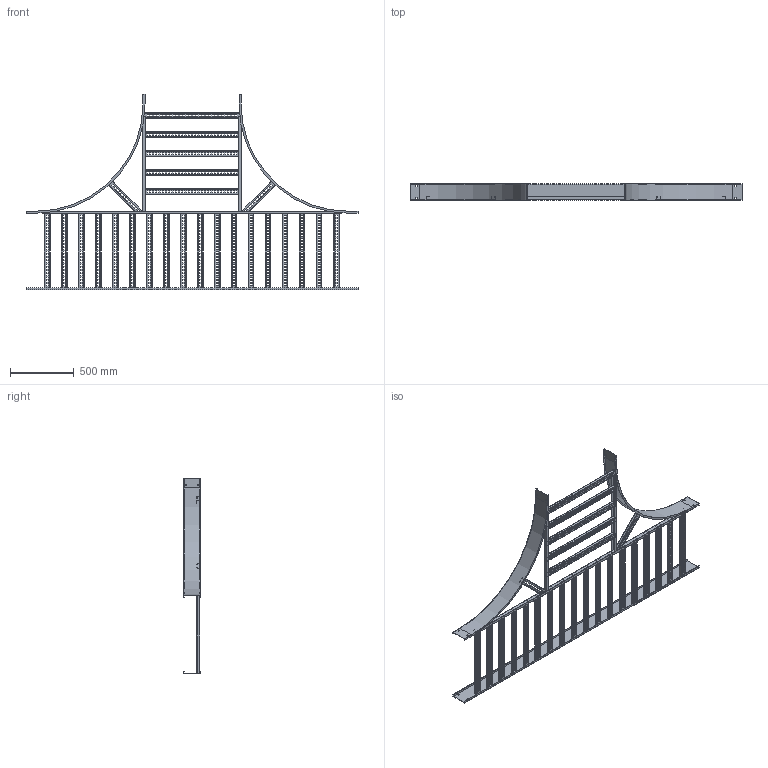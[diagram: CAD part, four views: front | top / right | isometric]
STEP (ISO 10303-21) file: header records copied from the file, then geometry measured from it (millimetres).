
FILE_DESCRIPTION((''),'2;1');
FILE_NAME('AUF52430VET36_ASM','2010-02-04T',('erouzier'),(''),'PRO/ENGINEER BY PARAMETRIC TECHNOLOGY CORPORATION, 2008510','PRO/ENGINEER BY PARAMETRIC TECHNOLOGY CORPORATION, 2008510','');
FILE_SCHEMA(('CONFIG_CONTROL_DESIGN'));
Length unit declared in the file: inch
Products named in the file (22): CDS001320-5-90-33-I; CDS013842-5-102; CDS000495_GEN_AF9; CDS002159L24-P_AF12; CDS002159L24-P_AF13; CDS002159L24-P_AF14; CDS002159L24-P_AF15; CDS002159L24-P; CDS002159L24-P_AF16; CDS002159L24-P_AF17; CDS002159L24-P_AF18; CDS002159L24-P_AF19; CDS000495_GEN_AF10; CDS000495_GEN_AF11; CDS002159L18-P_AF12; CDS002159L18-P_AF13; CDS002159L30-P_AF4; CDS002159L30-P_AF5; CDS002159L30-P; CDS002159L30-P_AF6; CDS002159L30-P_AF7; AUF52430VET36_ASM
Assembly tree (31 placements, depth 2):
  AUF52430VET36_ASM
    CDS001320-5-90-33-I  x2
    CDS013842-5-102
    CDS000495_GEN_AF9
    CDS002159L24-P_AF12
    CDS002159L24-P_AF13
    CDS002159L24-P_AF14
    CDS002159L24-P_AF15
    CDS002159L24-P  x10
    CDS002159L24-P_AF16
    CDS002159L24-P_AF17
    CDS002159L24-P_AF18
    CDS002159L24-P_AF19
    CDS000495_GEN_AF10
    CDS000495_GEN_AF11
    CDS002159L18-P_AF12
    CDS002159L18-P_AF13
    CDS002159L30-P_AF4
    CDS002159L30-P_AF5
    CDS002159L30-P
    CDS002159L30-P_AF6
    CDS002159L30-P_AF7
Bounding box: 2595.88 x 129.03 x 1528.83 mm (x, y, z)
Volume: 4635985.2 mm3; surface area: 5692212 mm2
Topology: 31 solids, 31 shells, 5354 faces, 15876 edges, 10584 vertices
Faces by surface type: plane 2833, cylinder 2521
Entity records: 118847 total; most frequent: CARTESIAN_POINT 20811, ORIENTED_EDGE 20544, DIRECTION 20518, EDGE_CURVE 10272, VECTOR 7020, LINE 7020, VERTEX_POINT 6848, AXIS2_PLACEMENT_3D 6749
